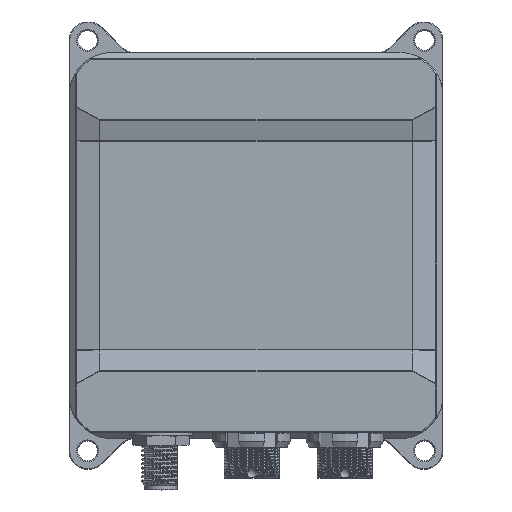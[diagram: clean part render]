
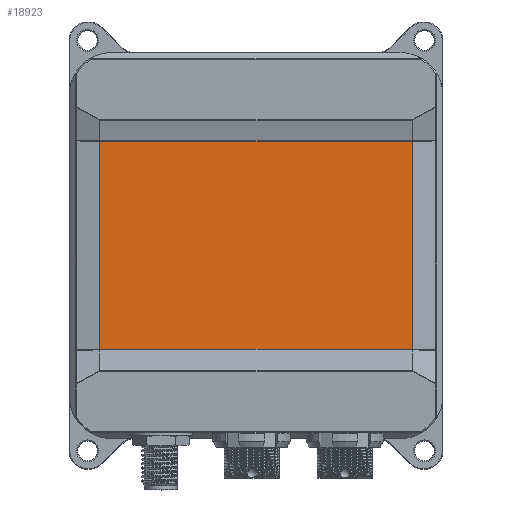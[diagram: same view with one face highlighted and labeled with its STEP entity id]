
A CAD part, top view. The second image highlights one B-rep face of the part: STEP entity #18923.
In plain terms, the highlighted planar face has unit normal (0, 0, 1) as drawn and (0, -1, 0) by its records, which use the part's own axes.
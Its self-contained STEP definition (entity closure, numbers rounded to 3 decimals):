
#2964=FACE_OUTER_BOUND('',#4130,.T.);
#4130=EDGE_LOOP('',(#13195,#13196,#13197,#13198));
#5474=LINE('',#27080,#6655);
#5475=LINE('',#27086,#6656);
#5476=LINE('',#27087,#6657);
#5477=LINE('',#27088,#6658);
#6655=VECTOR('',#22574,10.);
#6656=VECTOR('',#22581,10.);
#6657=VECTOR('',#22582,10.);
#6658=VECTOR('',#22583,10.);
#7813=VERTEX_POINT('',#27078);
#7814=VERTEX_POINT('',#27079);
#7815=VERTEX_POINT('',#27084);
#7816=VERTEX_POINT('',#27085);
#9877=EDGE_CURVE('',#7813,#7814,#5474,.T.);
#9880=EDGE_CURVE('',#7815,#7816,#5475,.T.);
#9881=EDGE_CURVE('',#7814,#7815,#5476,.T.);
#9882=EDGE_CURVE('',#7816,#7813,#5477,.T.);
#13195=ORIENTED_EDGE('',*,*,#9880,.F.);
#13196=ORIENTED_EDGE('',*,*,#9881,.F.);
#13197=ORIENTED_EDGE('',*,*,#9877,.F.);
#13198=ORIENTED_EDGE('',*,*,#9882,.F.);
#18439=PLANE('',#20351);
#18923=ADVANCED_FACE('',(#2964),#18439,.F.);
#20351=AXIS2_PLACEMENT_3D('',#27083,#22579,#22580);
#22574=DIRECTION('',(0.,0.,1.));
#22579=DIRECTION('center_axis',(0.,1.,0.));
#22580=DIRECTION('ref_axis',(0.,0.,
1.));
#22581=DIRECTION('',(0.,0.,-1.));
#22582=DIRECTION('',(1.,0.,0.));
#22583=DIRECTION('',(-1.,0.,0.));
#27078=CARTESIAN_POINT('',(-7.981,0.2,-47.477));
#27079=CARTESIAN_POINT('',(-7.981,0.2,-13.523));
#27080=CARTESIAN_POINT('',(-7.981,0.2,-43.384));
#27083=CARTESIAN_POINT('Origin',(-12.,0.2,-40.513));
#27084=CARTESIAN_POINT('',(42.981,0.2,-13.523));
#27085=CARTESIAN_POINT('',(42.981,0.2,-47.477));
#27086=CARTESIAN_POINT('',(42.981,0.2,-30.384));
#27087=CARTESIAN_POINT('',(0.,0.2,-13.523));
#27088=CARTESIAN_POINT('',(0.,0.2,-47.477));
